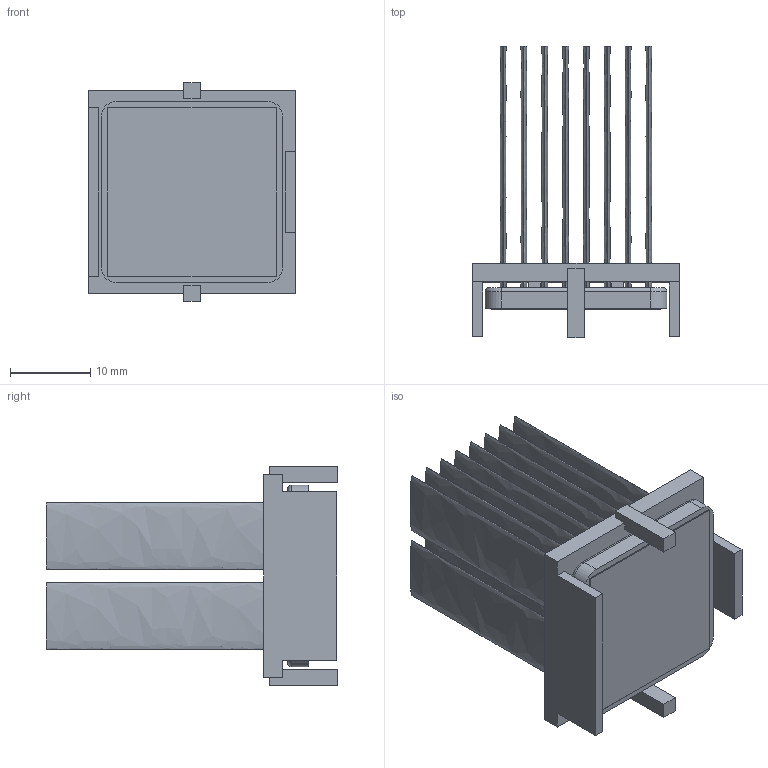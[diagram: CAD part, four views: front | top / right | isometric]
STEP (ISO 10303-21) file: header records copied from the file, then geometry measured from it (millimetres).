
FILE_DESCRIPTION (( 'STEP AP214' ), '1' );
FILE_NAME ('INM23001-33W_2.6+Y.STEP', '2023-02-15T19:39:42', ( '' ), ( '' ), 'SwSTEP 2.0', 'SolidWorks 2020', '' );
FILE_SCHEMA (( 'AUTOMOTIVE_DESIGN' ));
Length unit declared in the file: inch
Products named in the file (1): INM23001-33W_2.6+Y
Bounding box: 25.7 x 36.2 x 27.2 mm (x, y, z)
Volume: 4820.8 mm3; surface area: 11989.7 mm2
Topology: 3 solids, 3 shells, 126 faces, 304 edges, 200 vertices
Faces by surface type: plane 82, bspline 32, cylinder 8, torus 4
Entity records: 5404 total; most frequent: CARTESIAN_POINT 1047, ORIENTED_EDGE 608, DIRECTION 450, EDGE_CURVE 304, LINE 220, VECTOR 220, VERTEX_POINT 200, EDGE_LOOP 144
